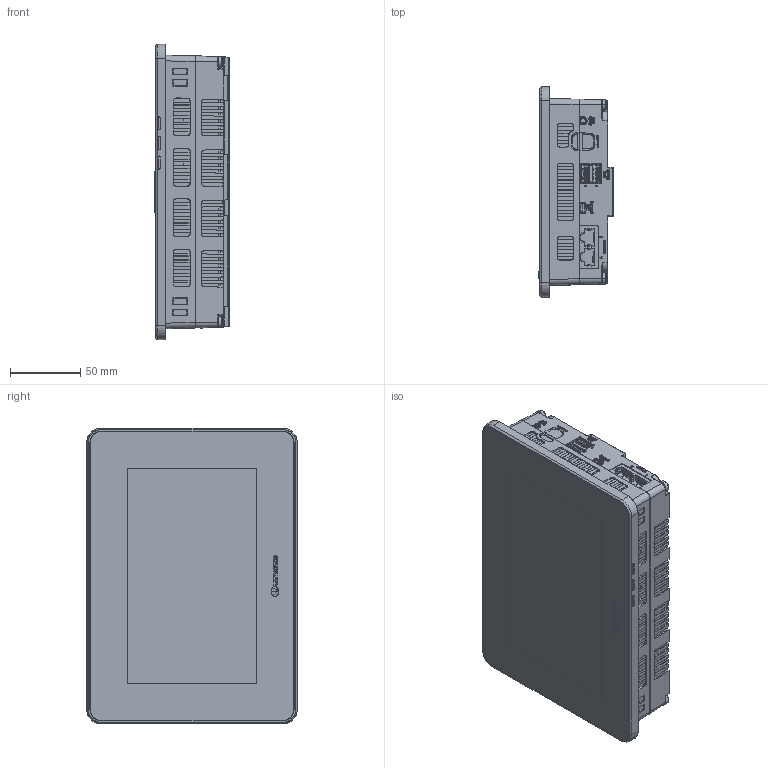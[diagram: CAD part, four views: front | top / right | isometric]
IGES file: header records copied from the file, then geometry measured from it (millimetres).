
Start section: SolidWorks IGES file using analytic representation for surfaces
Global section: file name: D:\Project\UniStream\CAD Files\3D\IGES\UniStream Panel 7inch.IGS; native system: SolidWorks 2011; preprocessor: SolidWorks 2011; author: baraki; date: 141020.092314; units: millimetre
Bounding box: 53 x 150.13 x 211.13 mm (x, y, z)
Surface area: 164129.8 mm2 (no closed solid volume)
Topology: 0 solids, 0 shells, 3922 faces, 35832 edges, 35815 vertices
Faces by surface type: bspline 3134, revolution 788
